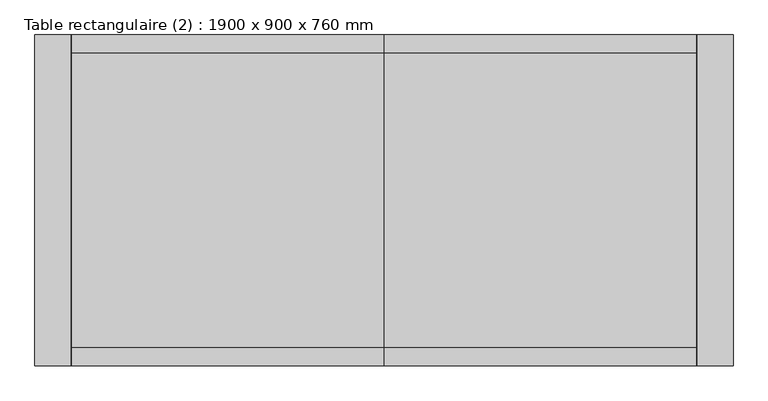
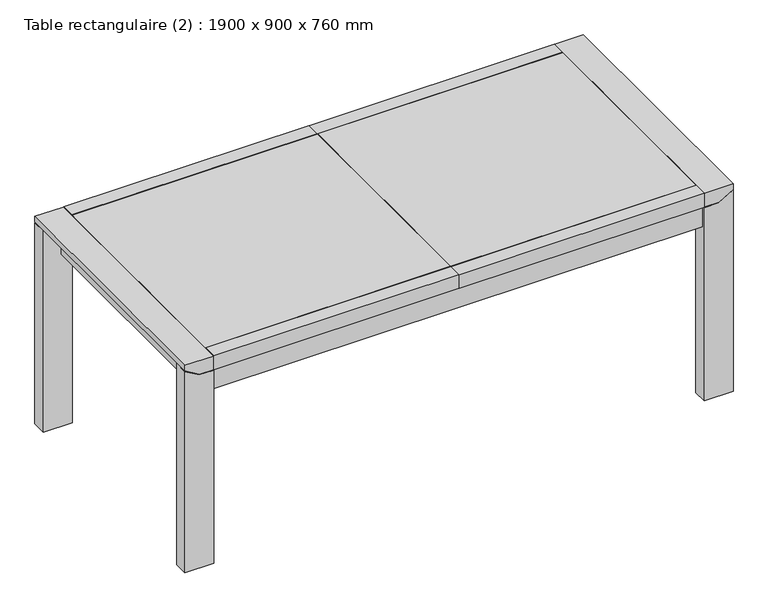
"""IFC4 building model written with IfcOpenShell, lengths in millimetres: furniture geometry, Table rectangulaire (2) : 1900 x 900 x 760 mm."""

from ifc_helpers import new_model, si_unit, frame, origin, place, context, project, spatial, polyline, outline, extrude, faceted_brep, source, transform, mapped, element, save


def table_rectangulaire_2_1900_x_900_x_760_mm_cc2dc7eb(model_context):
    return source(origin(), model_context, "Body", "SolidModel", [
        faceted_brep([(-950.0, -450.0, 760.0), (-950.0, -450.0, 740.0), (-900.0, -450.0, 710.0), (-852.0, -450.0, 710.0), (-852.0, -450.0, 760.0), (900.0, -450.0, 710.0), (950.0, -450.0, 740.0), (950.0, -450.0, 760.0), (852.0, -450.0, 760.0), (852.0, -450.0, 710.0), (-850.0, -450.0, 760.0), (-850.0, -450.0, 710.0), (-1.0, -450.0, 710.0), (-1.0, -450.0, 760.0), (850.0, -450.0, 710.0), (850.0, -450.0, 760.0), (1.0, -450.0, 760.0), (1.0, -450.0, 710.0), (950.0, 450.0, 760.0), (950.0, 450.0, 740.0), (900.0, 450.0, 710.0), (852.0, 450.0, 710.0), (852.0, 450.0, 760.0), (-900.0, 450.0, 710.0), (-950.0, 450.0, 740.0), (-950.0, 450.0, 760.0), (-852.0, 450.0, 760.0), (-852.0, 450.0, 710.0), (-850.0, 450.0, 710.0), (-850.0, 450.0, 760.0), (-1.0, 450.0, 760.0), (-1.0, 450.0, 710.0), (850.0, 450.0, 760.0), (850.0, 450.0, 710.0), (1.0, 450.0, 710.0), (1.0, 450.0, 760.0), (950.0, -400.0, 740.0), (950.0, 400.0, 740.0), (900.0, -448.0, 710.0), (900.0, -402.0, 710.0), (900.0, -400.0, 710.0), (900.0, 400.0, 710.0), (900.0, 402.0, 710.0), (900.0, 448.0, 710.0), (-900.0, 402.0, 710.0), (-900.0, 448.0, 710.0), (-852.0, 448.0, 710.0), (-850.0, 448.0, 710.0), (-1.0, 448.0, 710.0), (1.0, 448.0, 710.0), (850.0, 448.0, 710.0), (852.0, 448.0, 710.0), (852.0, -448.0, 710.0), (850.0, -448.0, 710.0), (1.0, -448.0, 710.0), (-1.0, -448.0, 710.0), (-850.0, -448.0, 710.0), (-852.0, -448.0, 710.0), (-900.0, -448.0, 710.0), (-900.0, -402.0, 710.0), (-900.0, -400.0, 710.0), (-900.0, 400.0, 710.0), (-950.0, -400.0, 740.0), (-950.0, 400.0, 740.0), (-1.0, -402.0, 760.0), (-850.0, -402.0, 760.0), (850.0, -402.0, 760.0), (1.0, -402.0, 760.0), (-850.0, 402.0, 760.0), (-1.0, 402.0, 760.0), (1.0, 402.0, 760.0), (850.0, 402.0, 760.0), (-850.0, -400.0, 760.0), (-1.0, -400.0, 760.0), (-1.0, 400.0, 760.0), (-850.0, 400.0, 760.0), (1.0, -400.0, 760.0), (850.0, -400.0, 760.0), (850.0, 400.0, 760.0), (1.0, 400.0, 760.0), (-850.0, 448.0, 758.0), (-850.0, 402.0, 758.0), (-850.0, -448.0, 758.0), (-850.0, -402.0, 758.0), (-850.0, -400.0, 758.0), (-850.0, 400.0, 758.0), (-852.0, 448.0, 758.0), (-852.0, -448.0, 758.0), (-1.0, -402.0, 758.0), (-1.0, -448.0, 758.0), (1.0, -448.0, 758.0), (1.0, -402.0, 758.0), (850.0, -402.0, 758.0), (850.0, -448.0, 758.0), (852.0, -448.0, 758.0), (852.0, 448.0, 758.0), (850.0, 448.0, 758.0), (850.0, 402.0, 758.0), (1.0, 402.0, 758.0), (1.0, 448.0, 758.0), (-1.0, 448.0, 758.0), (-1.0, 402.0, 758.0), (-1.0, 400.0, 758.0), (-1.0, -400.0, 758.0), (1.0, -400.0, 758.0), (1.0, 400.0, 758.0), (850.0, 400.0, 758.0), (850.0, -400.0, 758.0)], [[[0, 1, 2, 3, 4]], [[5, 6, 7, 8, 9]], [[10, 11, 12, 13]], [[14, 15, 16, 17]], [[18, 19, 20, 21, 22]], [[23, 24, 25, 26, 27]], [[28, 29, 30, 31]], [[32, 33, 34, 35]], [[7, 6, 36, 37, 19, 18]], [[6, 5, 38, 39, 40, 41, 42, 43, 20, 19, 37, 36]], [[44, 45, 23, 27, 46, 47, 28, 31, 48, 49, 34, 33, 50, 51, 21, 20, 43, 42, 41, 40, 39, 38, 5, 9, 52, 53, 14, 17, 54, 55, 12, 11, 56, 57, 3, 2, 58, 59, 60, 61]], [[2, 1, 62, 63, 24, 23, 45, 44, 61, 60, 59, 58]], [[1, 0, 25, 24, 63, 62]], [[10, 13, 64, 65]], [[16, 15, 66, 67]], [[30, 29, 68, 69]], [[32, 35, 70, 71]], [[7, 18, 22, 8]], [[25, 0, 4, 26]], [[72, 73, 74, 75]], [[76, 77, 78, 79]], [[47, 80, 81, 68, 29, 28]], [[82, 56, 11, 10, 65, 83]], [[84, 72, 75, 85]], [[80, 47, 46, 86]], [[86, 46, 27, 26, 4, 3, 57, 87]], [[80, 86, 87, 82, 83, 88, 89, 90, 91, 92, 93, 94, 95, 96, 97, 98, 99, 100, 101, 81], [84, 85, 102, 103], [104, 105, 106, 107]], [[56, 82, 87, 57]], [[50, 96, 95, 51]], [[96, 50, 33, 32, 71, 97]], [[53, 93, 92, 66, 15, 14]], [[77, 107, 106, 78]], [[51, 95, 94, 52, 9, 8, 22, 21]], [[93, 53, 52, 94]], [[48, 100, 99, 49]], [[100, 48, 31, 30, 69, 101]], [[55, 89, 88, 64, 13, 12]], [[73, 103, 102, 74]], [[49, 99, 98, 70, 35, 34]], [[90, 54, 17, 16, 67, 91]], [[104, 76, 79, 105]], [[89, 55, 54, 90]], [[104, 107, 77, 76]], [[84, 103, 73, 72]], [[88, 83, 65, 64]], [[92, 91, 67, 66]], [[98, 97, 71, 70]], [[81, 101, 69, 68]], [[106, 105, 79, 78]], [[102, 85, 75, 74]]]),
        extrude(outline(polyline([(850.0, -438.0), (-850.0, -438.0), (-850.0, -412.0), (850.0, -412.0), (850.0, -438.0)])), frame((0.0, 0.0, 630.0), z_axis=(0.0, 0.0, 1.0), x_axis=(1.0, 0.0, 0.0)), (0.0, 0.0, 1.0), 80.0),
        extrude(outline(polyline([(850.0, 438.0), (850.0, 412.0), (-850.0, 412.0), (-850.0, 438.0), (850.0, 438.0)])), frame((0.0, 0.0, 630.0), z_axis=(0.0, 0.0, 1.0), x_axis=(1.0, 0.0, 0.0)), (0.0, 0.0, 1.0), 80.0),
        extrude(outline(polyline([(-862.0, -400.0), (-888.0, -400.0), (-888.0, 400.0), (-862.0, 400.0), (-862.0, -400.0)])), frame((0.0, 0.0, 630.0), z_axis=(0.0, 0.0, 1.0), x_axis=(1.0, 0.0, 0.0)), (0.0, 0.0, 1.0), 80.0),
        extrude(outline(polyline([(888.0, -400.0), (862.0, -400.0), (862.0, 400.0), (888.0, 400.0), (888.0, -400.0)])), frame((0.0, 0.0, 630.0), z_axis=(0.0, 0.0, 1.0), x_axis=(1.0, 0.0, 0.0)), (0.0, 0.0, 1.0), 80.0),
        faceted_brep([(-850.0, -400.0, 0.0), (-950.0, -400.0, 0.0), (-950.0, -400.0, 737.6676192), (-900.5539679, -400.0, 708.0), (-850.0, -400.0, 708.0), (-950.0, -450.0, 0.0), (-850.0, -450.0, 0.0), (-850.0, -450.0, 708.0), (-900.5539679, -450.0, 708.0), (-950.0, -450.0, 737.6676192), (-900.0, -448.0, 710.0), (-900.0, -402.0, 710.0), (-948.2850141, -402.0, 738.9710085), (-948.2850141, -448.0, 738.9710085), (-852.0, -448.0, 710.0), (-852.0, -402.0, 710.0), (-852.0, -448.0, 708.0), (-852.0, -402.0, 708.0), (-949.3140057, -448.0, 737.2560226), (-900.5539679, -448.0, 708.0), (-949.3140057, -402.0, 737.2560226), (-900.5539679, -402.0, 708.0)], [[[0, 1, 2, 3, 4]], [[5, 6, 7, 8, 9]], [[10, 11, 12, 13]], [[11, 10, 14, 15]], [[6, 0, 4, 7]], [[1, 0, 6, 5]], [[1, 5, 9, 2]], [[14, 16, 17, 15]], [[16, 14, 10, 13, 18, 19]], [[18, 13, 12, 20]], [[15, 17, 21, 20, 12, 11]], [[19, 18, 20, 21, 3, 2, 9, 8]], [[17, 16, 19, 8, 7, 4, 3, 21]]]),
        faceted_brep([(950.0, -400.0, 0.0), (850.0, -400.0, 0.0), (850.0, -400.0, 708.0), (900.5539679, -400.0, 708.0), (950.0, -400.0, 737.6676192), (850.0, -450.0, 0.0), (950.0, -450.0, 0.0), (950.0, -450.0, 737.6676192), (900.5539679, -450.0, 708.0), (850.0, -450.0, 708.0), (900.0, -448.0, 710.0), (900.0, -402.0, 710.0), (852.0, -402.0, 710.0), (852.0, -448.0, 710.0), (948.2850141, -448.0, 738.9710085), (948.2850141, -402.0, 738.9710085), (949.3140057, -448.0, 737.2560226), (949.3140057, -402.0, 737.2560226), (852.0, -448.0, 708.0), (900.5539679, -448.0, 708.0), (852.0, -402.0, 708.0), (900.5539679, -402.0, 708.0)], [[[0, 1, 2, 3, 4]], [[5, 6, 7, 8, 9]], [[10, 11, 12, 13]], [[11, 10, 14, 15]], [[6, 0, 4, 7]], [[1, 0, 6, 5]], [[1, 5, 9, 2]], [[14, 16, 17, 15]], [[16, 14, 10, 13, 18, 19]], [[18, 13, 12, 20]], [[15, 17, 21, 20, 12, 11]], [[17, 16, 19, 8, 7, 4, 3, 21]], [[19, 18, 20, 21, 3, 2, 9, 8]]]),
        faceted_brep([(-950.0, 400.0, 0.0), (-850.0, 400.0, 0.0), (-850.0, 400.0, 708.0), (-900.5539679, 400.0, 708.0), (-950.0, 400.0, 737.6676192), (-850.0, 450.0, 0.0), (-950.0, 450.0, 0.0), (-950.0, 450.0, 737.6676192), (-900.5539679, 450.0, 708.0), (-850.0, 450.0, 708.0), (-900.0, 402.0, 710.0), (-900.0, 448.0, 710.0), (-948.2850141, 448.0, 738.9710085), (-948.2850141, 402.0, 738.9710085), (-852.0, 402.0, 710.0), (-852.0, 448.0, 710.0), (-852.0, 402.0, 708.0), (-852.0, 448.0, 708.0), (-949.3140057, 402.0, 737.2560226), (-900.5539679, 402.0, 708.0), (-949.3140057, 448.0, 737.2560226), (-900.5539679, 448.0, 708.0)], [[[0, 1, 2, 3, 4]], [[5, 6, 7, 8, 9]], [[1, 5, 9, 2]], [[1, 0, 6, 5]], [[6, 0, 4, 7]], [[10, 11, 12, 13]], [[11, 10, 14, 15]], [[14, 16, 17, 15]], [[16, 14, 10, 13, 18, 19]], [[18, 13, 12, 20]], [[15, 17, 21, 20, 12, 11]], [[19, 18, 20, 21, 8, 7, 4, 3]], [[17, 16, 19, 3, 2, 9, 8, 21]]]),
        faceted_brep([(850.0, 400.0, 0.0), (950.0, 400.0, 0.0), (950.0, 400.0, 737.6676192), (900.5539679, 400.0, 708.0), (850.0, 400.0, 708.0), (950.0, 450.0, 0.0), (850.0, 450.0, 0.0), (850.0, 450.0, 708.0), (900.5539679, 450.0, 708.0), (950.0, 450.0, 737.6676192), (900.0, 402.0, 710.0), (900.0, 448.0, 710.0), (852.0, 448.0, 710.0), (852.0, 402.0, 710.0), (948.2850141, 402.0, 738.9710085), (948.2850141, 448.0, 738.9710085), (949.3140057, 402.0, 737.2560226), (949.3140057, 448.0, 737.2560226), (852.0, 402.0, 708.0), (900.5539679, 402.0, 708.0), (852.0, 448.0, 708.0), (900.5539679, 448.0, 708.0)], [[[0, 1, 2, 3, 4]], [[5, 6, 7, 8, 9]], [[10, 11, 12, 13]], [[11, 10, 14, 15]], [[1, 5, 9, 2]], [[1, 0, 6, 5]], [[6, 0, 4, 7]], [[14, 16, 17, 15]], [[16, 14, 10, 13, 18, 19]], [[18, 13, 12, 20]], [[15, 17, 21, 20, 12, 11]], [[17, 16, 19, 3, 2, 9, 8, 21]], [[19, 18, 20, 21, 8, 7, 4, 3]]]),
    ])


if __name__ == "__main__":
    model = new_model("IFC4")
    model_context = context("Model", 3, world=origin())
    ifc_project = project(units=[si_unit("LENGTHUNIT", "METRE", prefix="MILLI")], contexts=[model_context])
    site = spatial("IfcSite", under=ifc_project)
    building = spatial("IfcBuilding", under=site)
    placement = place(None, origin())
    table_rectangulaire_2_1900_x_900_x_760_mm_shape = table_rectangulaire_2_1900_x_900_x_760_mm_cc2dc7eb(model_context)
    element("IfcFurniture", 1, ObjectType="Table rectangulaire (2) : 1900 x 900 x 760 mm", at=placement, inside=building, context=model_context, shape_type="MappedRepresentation", body=[
        mapped(table_rectangulaire_2_1900_x_900_x_760_mm_shape, transform((0.0, 0.0, 0.0), x_axis=(1.0, 0.0, 0.0), y_axis=(0.0, 1.0, 0.0), z_axis=(0.0, 0.0, 1.0))),
    ])
    save(model, "model.ifc")
